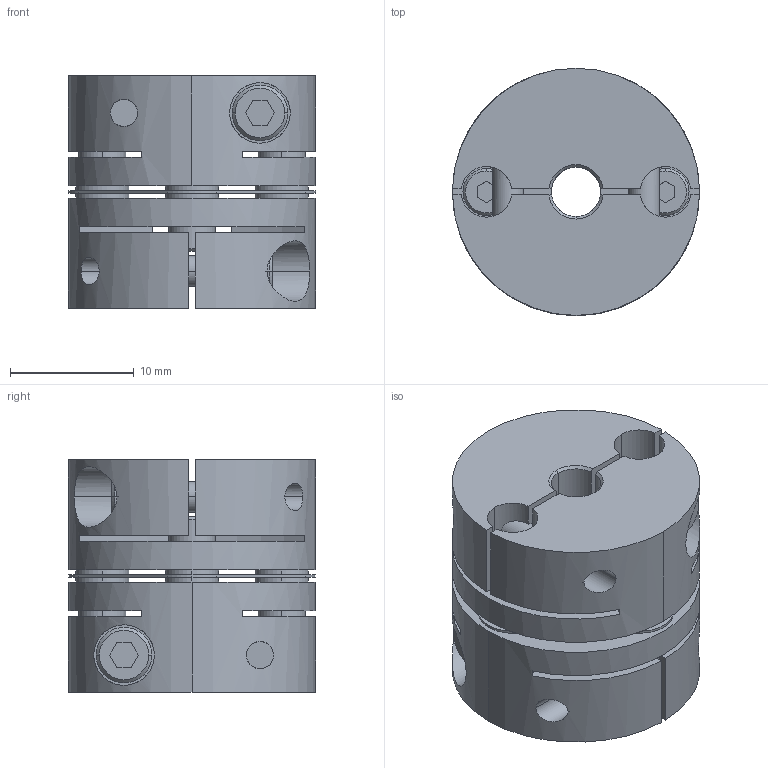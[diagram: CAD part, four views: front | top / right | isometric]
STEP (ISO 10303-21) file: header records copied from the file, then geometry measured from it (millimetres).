
FILE_DESCRIPTION((''),'2;1');
FILE_NAME('LAS-20C-4×7.stp','2011-08-10T08:52:41',(''),(''),'AutoCAD STEP 2000i','AutoCAD 2000i',', , ');
FILE_SCHEMA(('CONFIG_CONTROL_DESIGN'));
Length unit declared in the file: millimetre
Products named in the file (5): LAS-20C-4×4; 忣兜1; LA-2002-D04-1; LA-2002-D04; LAS20-ITA
Assembly tree (4 placements, depth 2):
  LAS-20C-4×4
    忣兜1
    LA-2002-D04-1
    LA-2002-D04
    LAS20-ITA
Bounding box: 20 x 20 x 18.8 mm (x, y, z)
Volume: 4555.2 mm3; surface area: 4539.1 mm2
Topology: 1 solids, 1 shells, 236 faces, 624 edges, 408 vertices
Faces by surface type: plane 112, cylinder 96, cone 28
Entity records: 8203 total; most frequent: CARTESIAN_POINT 2009, DIRECTION 1302, ORIENTED_EDGE 1248, EDGE_CURVE 624, AXIS2_PLACEMENT_3D 477, VERTEX_POINT 408, VECTOR 348, LINE 348
